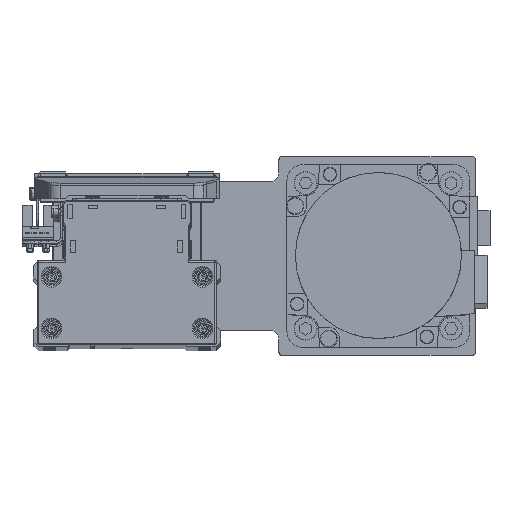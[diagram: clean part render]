
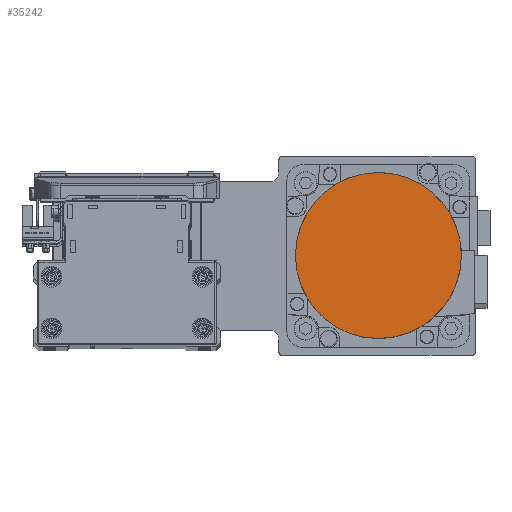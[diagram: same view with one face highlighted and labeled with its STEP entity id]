
A CAD part, top view. The second image highlights one B-rep face of the part: STEP entity #35242.
In plain terms, the highlighted planar face has unit normal (0, 0, 1) as drawn and (0, 0, -1) by its records, which use the part's own axes.
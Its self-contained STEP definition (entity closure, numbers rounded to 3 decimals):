
#982 = VERTEX_POINT ( 'NONE', #19973 ) ;
#4114 = AXIS2_PLACEMENT_3D ( 'NONE', #26558, #38934, #11152 ) ;
#6621 = ORIENTED_EDGE ( 'NONE', *, *, #10154, .F. ) ;
#8386 = AXIS2_PLACEMENT_3D ( 'NONE', #11829, #24195, #36575 ) ;
#9237 = CARTESIAN_POINT ( 'NONE',  ( 0., 0., -122.2 ) ) ;
#10154 = EDGE_CURVE ( 'NONE', #982, #36349, #21602, .T. ) ;
#11152 = DIRECTION ( 'NONE',  ( 0., 1., 0. ) ) ;
#11829 = CARTESIAN_POINT ( 'NONE',  ( 0., 0., -122.2 ) ) ;
#12721 = EDGE_LOOP ( 'NONE', ( #6621, #16828 ) ) ;
#16283 = EDGE_CURVE ( 'NONE', #36349, #982, #39542, .T. ) ;
#16828 = ORIENTED_EDGE ( 'NONE', *, *, #16283, .F. ) ;
#19973 = CARTESIAN_POINT ( 'NONE',  ( 0., 36.3, -122.2 ) ) ;
#21602 = CIRCLE ( 'NONE', #4114, 36.3 ) ;
#21615 = DIRECTION ( 'NONE',  ( 0., 0., 1. ) ) ;
#22067 = AXIS2_PLACEMENT_3D ( 'NONE', #9237, #21615, #33983 ) ;
#22552 = CARTESIAN_POINT ( 'NONE',  ( 0., -36.3, -122.2 ) ) ;
#24195 = DIRECTION ( 'NONE',  ( 0., 0., 1. ) ) ;
#26558 = CARTESIAN_POINT ( 'NONE',  ( 0., 0., -122.2 ) ) ;
#27240 = FACE_OUTER_BOUND ( 'NONE', #12721, .T. ) ;
#33983 = DIRECTION ( 'NONE',  ( 0., -1., 0. ) ) ;
#35242 = ADVANCED_FACE ( 'NONE', ( #27240 ), #39617, .F. ) ;
#36349 = VERTEX_POINT ( 'NONE', #22552 ) ;
#36575 = DIRECTION ( 'NONE',  ( 1., 0., 0. ) ) ;
#38934 = DIRECTION ( 'NONE',  ( 0., 0., 1. ) ) ;
#39542 = CIRCLE ( 'NONE', #22067, 36.3 ) ;
#39617 = PLANE ( 'NONE',  #8386 ) ;
